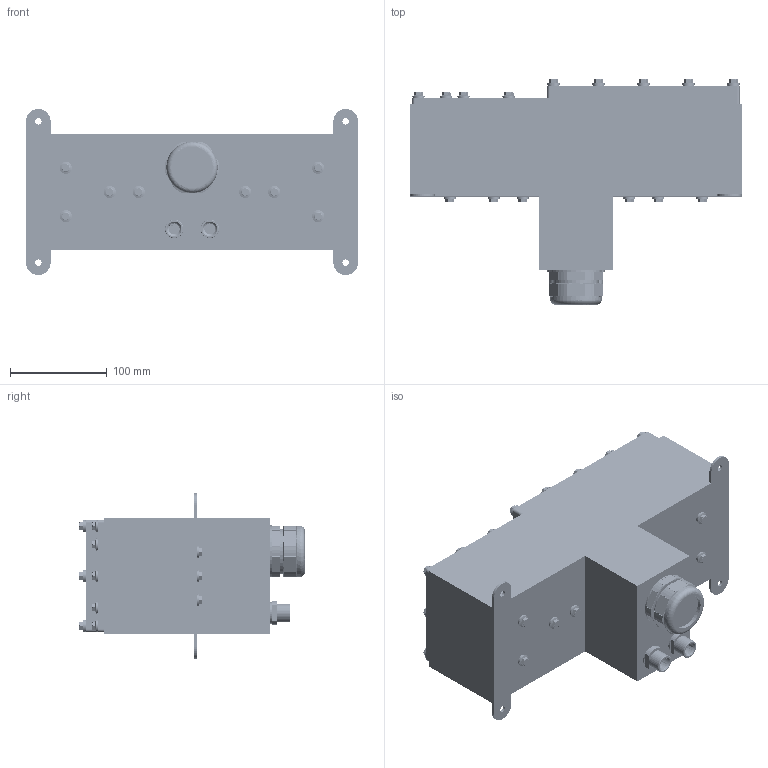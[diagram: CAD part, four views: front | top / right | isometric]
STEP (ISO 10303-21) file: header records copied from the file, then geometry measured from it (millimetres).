
FILE_DESCRIPTION (( 'STEP AP203' ), '1' );
FILE_NAME ('LL-FC-S.STEP', '2023-03-10T16:40:20', ( '' ), ( '' ), 'SwSTEP 2.0', 'SolidWorks 2021', '' );
FILE_SCHEMA (( 'CONFIG_CONTROL_DESIGN' ));
Length unit declared in the file: inch
Products named in the file (36): PG36-01-01-02-01; 200792; 93625A200; LL-FC-S; 400107; PG36-S02; 800004; PG36-N01; 500143_8477K33; 200794; 93635A175_93635A175; 91292A117; MotionCam-3D-Color-S-env-fov; 400102; 800023; 201498; 500426; 201495; 800022; 201499; 200309; PG36-I01; 400638; 201496; 800020; TJS050023X; 400639; PG36-B01; 91292A048_91292A048; 400101; 91292A108_91292A108; 91292A116; 800005; 8674T55_8674T55; 200791; SP-M5-2
Assembly tree (120 placements, depth 3):
  LL-FC-S
    201495
      201496
      SP-M5-2  x18
    200791
      200792
      SP-M5-2  x4
    200309
    201498
    201499
    200794  x4
    400101
    400107  x2
    400638
    400639
    500143_8477K33
    500426
    TJS050023X  x12
    93635A175_93635A175  x12
    93625A200  x5
    PG36-01-01-02-01
      PG36-B01
      PG36-I01
      PG36-S02
      PG36-N01
    800004  x15
      800005
      400102
    800022  x4
    800023  x4
      800020
      400102
    8674T55_8674T55  x2
    91292A048_91292A048  x4
    91292A117  x8
    91292A108_91292A108  x2
    91292A116  x2
    MotionCam-3D-Color-S-env-fov
Bounding box: 342.9 x 232.89 x 171.45 mm (x, y, z)
Volume: 1194358.3 mm3; surface area: 943059.2 mm2
Topology: 172 solids, 175 shells, 10068 faces, 26466 edges, 17143 vertices
Faces by surface type: cylinder 5132, plane 2954, cone 1172, bspline 498, torus 216, sphere 96
Entity records: 210946 total; most frequent: CARTESIAN_POINT 112678, ORIENTED_EDGE 21212, DIRECTION 16195, EDGE_CURVE 10606, VERTEX_POINT 6839, AXIS2_PLACEMENT_3D 6479, EDGE_LOOP 4733, ADVANCED_FACE 4125
